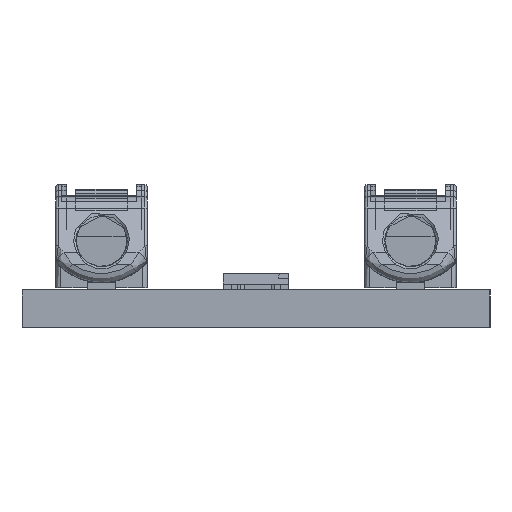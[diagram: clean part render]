
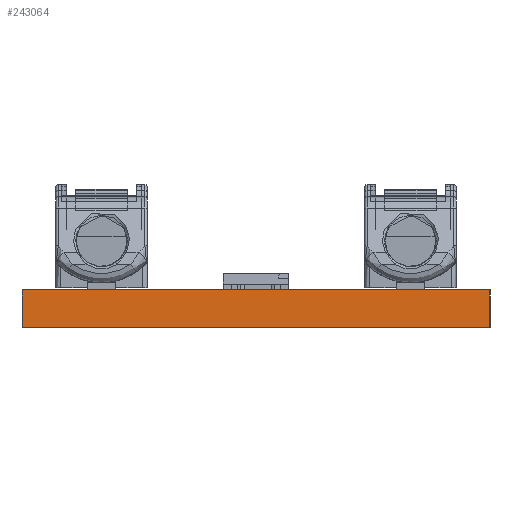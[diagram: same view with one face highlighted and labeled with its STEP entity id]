
A CAD part, left-side view. The second image highlights one B-rep face of the part: STEP entity #243064.
In plain terms, the highlighted planar face has unit normal (-1, 0, 0).
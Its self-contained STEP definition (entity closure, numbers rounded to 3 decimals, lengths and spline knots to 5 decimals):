
#16007=LINE('',#325172,#45573);
#42260=LINE('',#383077,#71826);
#42278=LINE('',#383108,#71844);
#42308=LINE('',#383164,#71874);
#45573=VECTOR('',#265413,0.3937);
#71826=VECTOR('',#314388,0.3937);
#71844=VECTOR('',#314426,0.3937);
#71874=VECTOR('',#314476,0.3937);
#82924=PLANE('',#257918);
#94498=FACE_OUTER_BOUND('',#107008,.T.);
#107008=EDGE_LOOP('',(#227681,#227682,#227683,#227684));
#113113=VERTEX_POINT('',#325169);
#113114=VERTEX_POINT('',#325171);
#131817=VERTEX_POINT('',#383076);
#131820=VERTEX_POINT('',#383107);
#135849=EDGE_CURVE('',#113113,#113114,#16007,.T.);
#163972=EDGE_CURVE('',#113114,#131817,#42260,.T.);
#163990=EDGE_CURVE('',#131817,#131820,#42278,.T.);
#164020=EDGE_CURVE('',#113113,#131820,#42308,.T.);
#227681=ORIENTED_EDGE('',*,*,#135849,.F.);
#227682=ORIENTED_EDGE('',*,*,#164020,.T.);
#227683=ORIENTED_EDGE('',*,*,#163990,.F.);
#227684=ORIENTED_EDGE('',*,*,#163972,.F.);
#243064=ADVANCED_FACE('',(#94498),#82924,.T.);
#257918=AXIS2_PLACEMENT_3D('',#383205,#314541,#314542);
#265413=DIRECTION('',(0.,-1.,0.));
#314388=DIRECTION('',(0.,0.,-1.));
#314426=DIRECTION('',(0.,1.,0.));
#314476=DIRECTION('',(0.,0.,-1.));
#314541=DIRECTION('center_axis',(-1.,0.,0.));
#314542=DIRECTION('ref_axis',(0.,1.,0.));
#325169=CARTESIAN_POINT('',(-27.54331,0.7874,0.));
#325171=CARTESIAN_POINT('',(-27.54331,0.,0.));
#325172=CARTESIAN_POINT('',(-27.54331,0.7874,0.));
#383076=CARTESIAN_POINT('',(-27.54331,0.,-0.06299));
#383077=CARTESIAN_POINT('',(-27.54331,0.,0.));
#383107=CARTESIAN_POINT('',(-27.54331,0.7874,-0.06299));
#383108=CARTESIAN_POINT('',(-27.54331,0.7874,-0.06299));
#383164=CARTESIAN_POINT('',(-27.54331,0.7874,0.));
#383205=CARTESIAN_POINT('Origin',(-27.54331,0.,0.));
